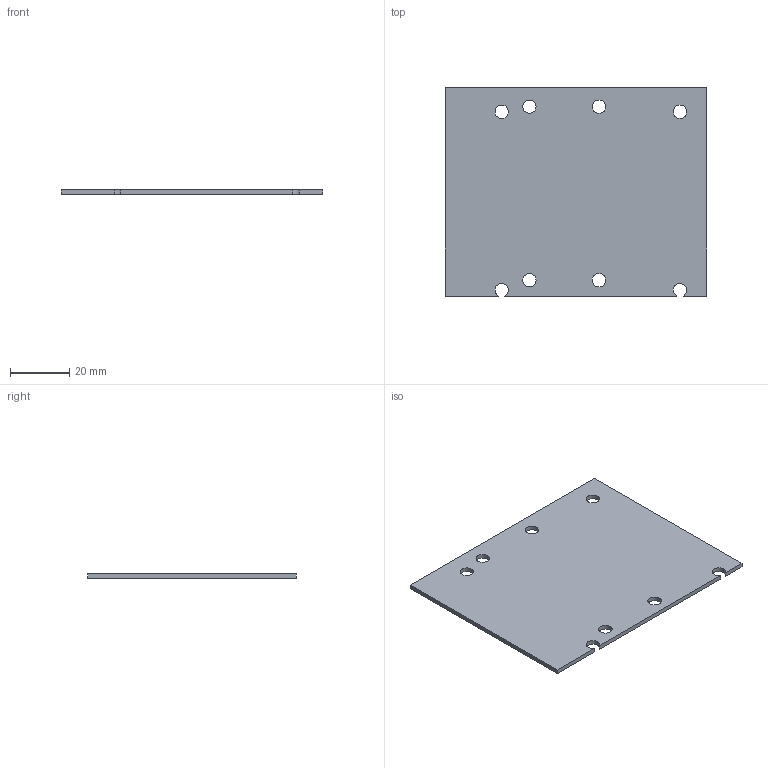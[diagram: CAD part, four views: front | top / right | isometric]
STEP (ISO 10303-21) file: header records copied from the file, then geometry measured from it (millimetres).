
FILE_DESCRIPTION(('Open CASCADE Model'),'2;1');
FILE_NAME('Open CASCADE Shape Model','2026-10-18T22:58:24',('Author'),( 'Open CASCADE'),'Open CASCADE STEP processor 7.9','Open CASCADE 7.9' ,'Unknown');
FILE_SCHEMA(('AUTOMOTIVE_DESIGN { 1 0 10303 214 1 1 1 1 }'));
Length unit declared in the file: millimetre
Products named in the file (1): Open CASCADE STEP translator 7.9 23
Bounding box: 88 x 70 x 1.5 mm (x, y, z)
Volume: 9050.2 mm3; surface area: 12698 mm2
Topology: 1 solids, 1 shells, 18 faces, 48 edges, 32 vertices
Faces by surface type: cylinder 10, plane 8
Full cylindrical faces by diameter (mm): 4.5 x6
Entity records: 1282 total; most frequent: CARTESIAN_POINT 323, DIRECTION 174, ORIENTED_EDGE 96, LINE 96, VECTOR 96, PCURVE 96, DEFINITIONAL_REPRESENTATION 96, EDGE_CURVE 48
